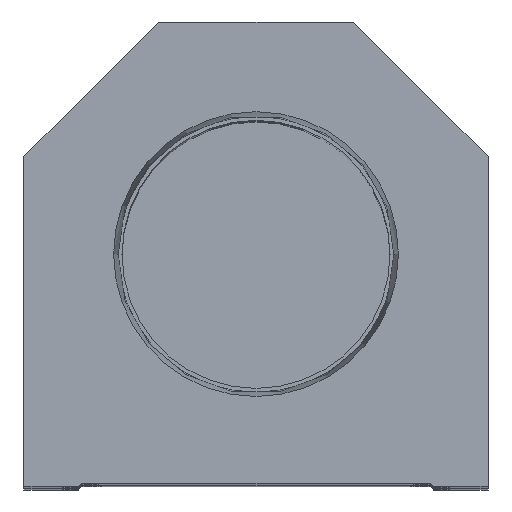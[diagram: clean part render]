
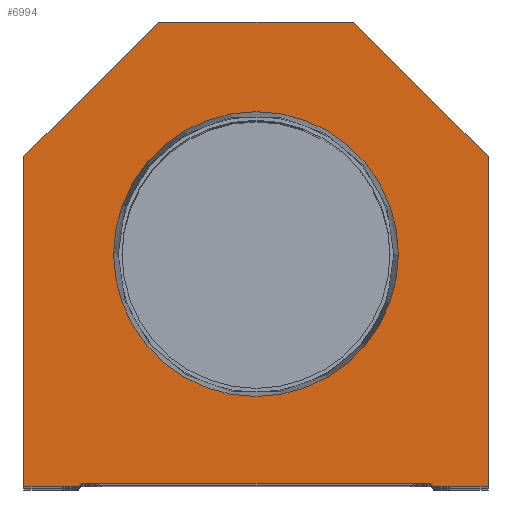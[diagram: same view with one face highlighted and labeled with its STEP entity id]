
A CAD part, top view. The second image highlights one B-rep face of the part: STEP entity #6994.
In plain terms, the highlighted planar face has unit normal (0, 0, 1).
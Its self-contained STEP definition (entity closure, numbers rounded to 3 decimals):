
#265 = CIRCLE ( 'NONE', #3464, 23.374 ) ;
#617 = EDGE_CURVE ( 'NONE', #3936, #10599, #14495, .T. ) ;
#663 = LINE ( 'NONE', #12807, #9653 ) ;
#747 = EDGE_CURVE ( 'NONE', #6945, #9503, #265, .T. ) ;
#808 = CARTESIAN_POINT ( 'NONE',  ( -14.55, 14.55, 0. ) ) ;
#824 = LINE ( 'NONE', #9787, #8309 ) ;
#842 = ORIENTED_EDGE ( 'NONE', *, *, #1487, .T. ) ;
#1062 = CARTESIAN_POINT ( 'NONE',  ( -38.1, 54.1, 0. ) ) ;
#1095 = CARTESIAN_POINT ( 'NONE',  ( -23.374, 38.1, 0. ) ) ;
#1287 = CARTESIAN_POINT ( 'NONE',  ( 16., 76.2, 0. ) ) ;
#1487 = EDGE_CURVE ( 'NONE', #13114, #3273, #9983, .T. ) ;
#1658 = EDGE_CURVE ( 'NONE', #9503, #6945, #19096, .T. ) ;
#1707 = ORIENTED_EDGE ( 'NONE', *, *, #747, .F. ) ;
#1942 = CARTESIAN_POINT ( 'NONE',  ( 28.6, 0., 0. ) ) ;
#2290 = DIRECTION ( 'NONE',  ( 1., 0., 0. ) ) ;
#2622 = EDGE_CURVE ( 'NONE', #5474, #10313, #18145, .T. ) ;
#2845 = VERTEX_POINT ( 'NONE', #7096 ) ;
#3122 = DIRECTION ( 'NONE',  ( 0., 0., 1. ) ) ;
#3236 = CARTESIAN_POINT ( 'NONE',  ( 14.55, 14.55, 0. ) ) ;
#3258 = DIRECTION ( 'NONE',  ( 1., 0., 0. ) ) ;
#3273 = VERTEX_POINT ( 'NONE', #14467 ) ;
#3281 = EDGE_CURVE ( 'NONE', #10599, #13114, #8656, .T. ) ;
#3447 = ORIENTED_EDGE ( 'NONE', *, *, #14900, .T. ) ;
#3464 = AXIS2_PLACEMENT_3D ( 'NONE', #16784, #3122, #18362 ) ;
#3536 = VERTEX_POINT ( 'NONE', #7121 ) ;
#3857 = VERTEX_POINT ( 'NONE', #8408 ) ;
#3936 = VERTEX_POINT ( 'NONE', #8500 ) ;
#5299 = DIRECTION ( 'NONE',  ( -0.707, 0.707, 0. ) ) ;
#5474 = VERTEX_POINT ( 'NONE', #18312 ) ;
#5677 = EDGE_CURVE ( 'NONE', #11240, #2845, #13981, .T. ) ;
#6287 = VECTOR ( 'NONE', #17932, 1000. ) ;
#6701 = EDGE_LOOP ( 'NONE', ( #14740, #12308, #842, #7773, #8061, #3447, #19637, #18345, #14503, #15217 ) ) ;
#6945 = VERTEX_POINT ( 'NONE', #11185 ) ;
#6994 = ADVANCED_FACE ( 'NONE', ( #18925, #10142 ), #16244, .T. ) ;
#7096 = CARTESIAN_POINT ( 'NONE',  ( 38.1, 0., 0. ) ) ;
#7121 = CARTESIAN_POINT ( 'NONE',  ( 38.1, 54.1, 0. ) ) ;
#7514 = VECTOR ( 'NONE', #17053, 1000. ) ;
#7517 = DIRECTION ( 'NONE',  ( -1., 0., 0. ) ) ;
#7773 = ORIENTED_EDGE ( 'NONE', *, *, #14154, .T. ) ;
#7899 = EDGE_CURVE ( 'NONE', #3857, #3936, #18533, .T. ) ;
#8061 = ORIENTED_EDGE ( 'NONE', *, *, #5677, .T. ) ;
#8227 = AXIS2_PLACEMENT_3D ( 'NONE', #16288, #8667, #14780 ) ;
#8309 = VECTOR ( 'NONE', #5299, 1000. ) ;
#8372 = CARTESIAN_POINT ( 'NONE',  ( -28.6, 0.5, 0. ) ) ;
#8408 = CARTESIAN_POINT ( 'NONE',  ( -38.1, 54.1, 0. ) ) ;
#8500 = CARTESIAN_POINT ( 'NONE',  ( -38.1, 0., 0. ) ) ;
#8656 = LINE ( 'NONE', #808, #12788 ) ;
#8667 = DIRECTION ( 'NONE',  ( 0., 0., 1. ) ) ;
#9503 = VERTEX_POINT ( 'NONE', #1095 ) ;
#9653 = VECTOR ( 'NONE', #18903, 1000. ) ;
#9736 = CARTESIAN_POINT ( 'NONE',  ( 0., 0., 0. ) ) ;
#9787 = CARTESIAN_POINT ( 'NONE',  ( 38.1, 54.1, 0. ) ) ;
#9803 = CARTESIAN_POINT ( 'NONE',  ( -28.6, 0., 0. ) ) ;
#9983 = LINE ( 'NONE', #8372, #16871 ) ;
#10142 = FACE_OUTER_BOUND ( 'NONE', #6701, .T. ) ;
#10257 = CARTESIAN_POINT ( 'NONE',  ( -29.1, 0., 0. ) ) ;
#10313 = VERTEX_POINT ( 'NONE', #18464 ) ;
#10599 = VERTEX_POINT ( 'NONE', #10257 ) ;
#10834 = VECTOR ( 'NONE', #7517, 1000. ) ;
#10844 = CARTESIAN_POINT ( 'NONE',  ( -38.1, 0., 0. ) ) ;
#11076 = DIRECTION ( 'NONE',  ( 1., 0., 0. ) ) ;
#11185 = CARTESIAN_POINT ( 'NONE',  ( 23.374, 38.1, 0. ) ) ;
#11240 = VERTEX_POINT ( 'NONE', #15609 ) ;
#11817 = LINE ( 'NONE', #1062, #6287 ) ;
#12275 = VECTOR ( 'NONE', #3258, 1000. ) ;
#12308 = ORIENTED_EDGE ( 'NONE', *, *, #3281, .T. ) ;
#12583 = DIRECTION ( 'NONE',  ( 1., 0., 0. ) ) ;
#12788 = VECTOR ( 'NONE', #16373, 1000. ) ;
#12807 = CARTESIAN_POINT ( 'NONE',  ( 38.1, 0., 0. ) ) ;
#13017 = DIRECTION ( 'NONE',  ( 0., 0., 1. ) ) ;
#13114 = VERTEX_POINT ( 'NONE', #14469 ) ;
#13962 = DIRECTION ( 'NONE',  ( 0.707, -0.707, 0. ) ) ;
#13981 = LINE ( 'NONE', #1942, #12275 ) ;
#14154 = EDGE_CURVE ( 'NONE', #3273, #11240, #18655, .T. ) ;
#14467 = CARTESIAN_POINT ( 'NONE',  ( 28.6, 0.5, 0. ) ) ;
#14469 = CARTESIAN_POINT ( 'NONE',  ( -28.6, 0.5, 0. ) ) ;
#14495 = LINE ( 'NONE', #9803, #16838 ) ;
#14503 = ORIENTED_EDGE ( 'NONE', *, *, #17048, .T. ) ;
#14740 = ORIENTED_EDGE ( 'NONE', *, *, #617, .T. ) ;
#14780 = DIRECTION ( 'NONE',  ( 1., 0., 0. ) ) ;
#14900 = EDGE_CURVE ( 'NONE', #2845, #3536, #663, .T. ) ;
#15217 = ORIENTED_EDGE ( 'NONE', *, *, #7899, .T. ) ;
#15609 = CARTESIAN_POINT ( 'NONE',  ( 29.1, 0., 0. ) ) ;
#15820 = AXIS2_PLACEMENT_3D ( 'NONE', #9736, #13017, #2290 ) ;
#16077 = ORIENTED_EDGE ( 'NONE', *, *, #1658, .F. ) ;
#16244 = PLANE ( 'NONE',  #15820 ) ;
#16288 = CARTESIAN_POINT ( 'NONE',  ( 0., 38.1, 0. ) ) ;
#16373 = DIRECTION ( 'NONE',  ( 0.707, 0.707, 0. ) ) ;
#16784 = CARTESIAN_POINT ( 'NONE',  ( 0., 38.1, 0. ) ) ;
#16838 = VECTOR ( 'NONE', #12583, 1000. ) ;
#16871 = VECTOR ( 'NONE', #11076, 1000. ) ;
#16986 = VECTOR ( 'NONE', #13962, 1000. ) ;
#17048 = EDGE_CURVE ( 'NONE', #10313, #3857, #11817, .T. ) ;
#17053 = DIRECTION ( 'NONE',  ( 0., -1., 0. ) ) ;
#17722 = EDGE_LOOP ( 'NONE', ( #1707, #16077 ) ) ;
#17932 = DIRECTION ( 'NONE',  ( -0.707, -0.707, 0. ) ) ;
#18145 = LINE ( 'NONE', #1287, #10834 ) ;
#18312 = CARTESIAN_POINT ( 'NONE',  ( 16., 76.2, 0. ) ) ;
#18345 = ORIENTED_EDGE ( 'NONE', *, *, #2622, .T. ) ;
#18362 = DIRECTION ( 'NONE',  ( 1., 0., 0. ) ) ;
#18464 = CARTESIAN_POINT ( 'NONE',  ( -16., 76.2, 0. ) ) ;
#18533 = LINE ( 'NONE', #10844, #7514 ) ;
#18655 = LINE ( 'NONE', #3236, #16986 ) ;
#18903 = DIRECTION ( 'NONE',  ( 0., 1., 0. ) ) ;
#18925 = FACE_BOUND ( 'NONE', #17722, .T. ) ;
#19096 = CIRCLE ( 'NONE', #8227, 23.374 ) ;
#19637 = ORIENTED_EDGE ( 'NONE', *, *, #19727, .T. ) ;
#19727 = EDGE_CURVE ( 'NONE', #3536, #5474, #824, .T. ) ;
